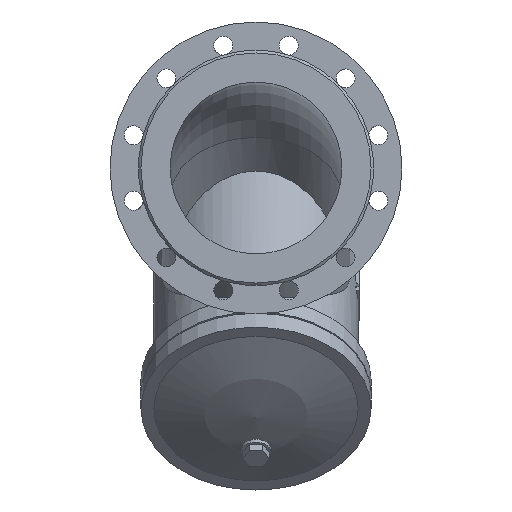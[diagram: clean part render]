
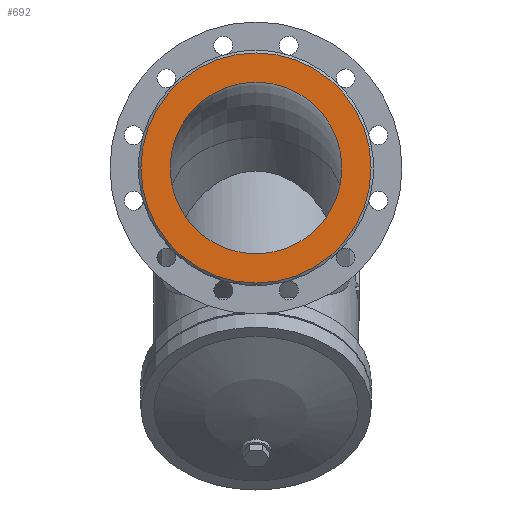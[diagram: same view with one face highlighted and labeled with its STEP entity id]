
A CAD part, front view. The second image highlights one B-rep face of the part: STEP entity #692.
In plain terms, the highlighted planar face has unit normal (0, -1, 0).
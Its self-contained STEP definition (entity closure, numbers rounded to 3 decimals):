
#692=ADVANCED_FACE('',(#1520,#1522),#1524,.T.);
#1520=FACE_BOUND('',#1521,.T.);
#1521=EDGE_LOOP('',(#2118));
#1522=FACE_BOUND('',#1523,.T.);
#1523=EDGE_LOOP('',(#2119));
#1524=PLANE('',#1525);
#1525=AXIS2_PLACEMENT_3D('',#1526,#1527,#1528);
#1526=CARTESIAN_POINT('',(0.,-300.,0.));
#1527=DIRECTION('',(0.,-1.,0.));
#1528=DIRECTION('',(0.,0.,1.));
#2118=ORIENTED_EDGE('',*,*,#2380,.F.);
#2119=ORIENTED_EDGE('',*,*,#2396,.T.);
#2380=EDGE_CURVE('',#2785,#2785,#2786,.T.);
#2396=EDGE_CURVE('',#2805,#2805,#2806,.T.);
#2785=VERTEX_POINT('',#5811);
#2786=CIRCLE('',#5812,134.);
#2805=VERTEX_POINT('',#5879);
#2806=CIRCLE('',#5880,100.);
#5811=CARTESIAN_POINT('',(0.,-300.,134.));
#5812=AXIS2_PLACEMENT_3D('',#5813,#5814,#5815);
#5813=CARTESIAN_POINT('',(0.,-300.,0.));
#5814=DIRECTION('',(0.,1.,0.));
#5815=DIRECTION('',(0.,0.,1.));
#5879=CARTESIAN_POINT('',(0.,-300.,100.));
#5880=AXIS2_PLACEMENT_3D('',#5881,#5882,#5883);
#5881=CARTESIAN_POINT('',(0.,-300.,0.));
#5882=DIRECTION('',(0.,1.,0.));
#5883=DIRECTION('',(0.,0.,1.));
